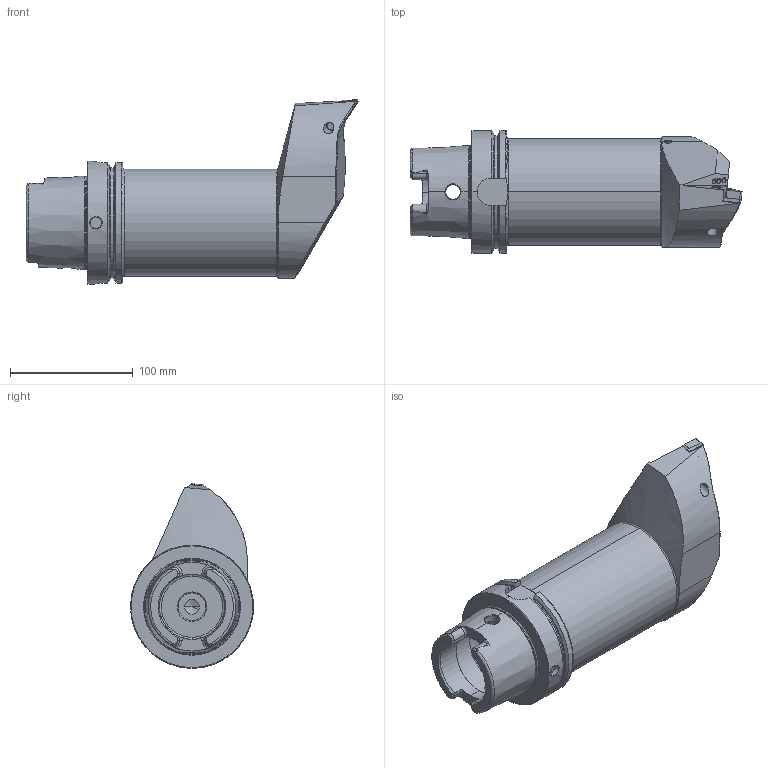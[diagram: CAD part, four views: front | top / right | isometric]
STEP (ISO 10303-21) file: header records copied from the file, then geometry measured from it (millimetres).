
FILE_DESCRIPTION (( 'STEP AP214' ), '1' );
FILE_NAME ('-PD..LJX.220-HP.STEP', '2024-07-04T07:23:25', ( '' ), ( '' ), 'SwSTEP 2.0', 'SolidWorks 2022', '' );
FILE_SCHEMA (( 'AUTOMOTIVE_DESIGN' ));
Length unit declared in the file: millimetre
Products named in the file (8): HA0-PDF.LJX.220-HP_A_Fertigbearbeitung; WDF-ER2.101.003_A; WCD-ER1.101.000; WDF-ER3.101.000_A; WCD-ER4.101.017_A; DNMG 15 06 12; -PD..LJX.220-HP; ISO 4026 - M6 x 8
Assembly tree (8 placements, depth 2):
  -PD..LJX.220-HP
    HA0-PDF.LJX.220-HP_A_Fertigbearbeitung
    WDF-ER2.101.003_A
    WCD-ER4.101.017_A
    WDF-ER3.101.000_A
    WCD-ER1.101.000
    ISO 4026 - M6 x 8  x2
    DNMG 15 06 12
Bounding box: 269.92 x 100 x 150.01 mm (x, y, z)
Volume: 1358104.3 mm3; surface area: 118307.3 mm2
Topology: 8 solids, 8 shells, 364 faces, 933 edges, 577 vertices
Faces by surface type: plane 126, cylinder 114, cone 73, torus 44, bspline 7
Entity records: 14309 total; most frequent: CARTESIAN_POINT 4252, ORIENTED_EDGE 1786, DIRECTION 1683, EDGE_CURVE 893, AXIS2_PLACEMENT_3D 648, VERTEX_POINT 557, LINE 387, VECTOR 387
